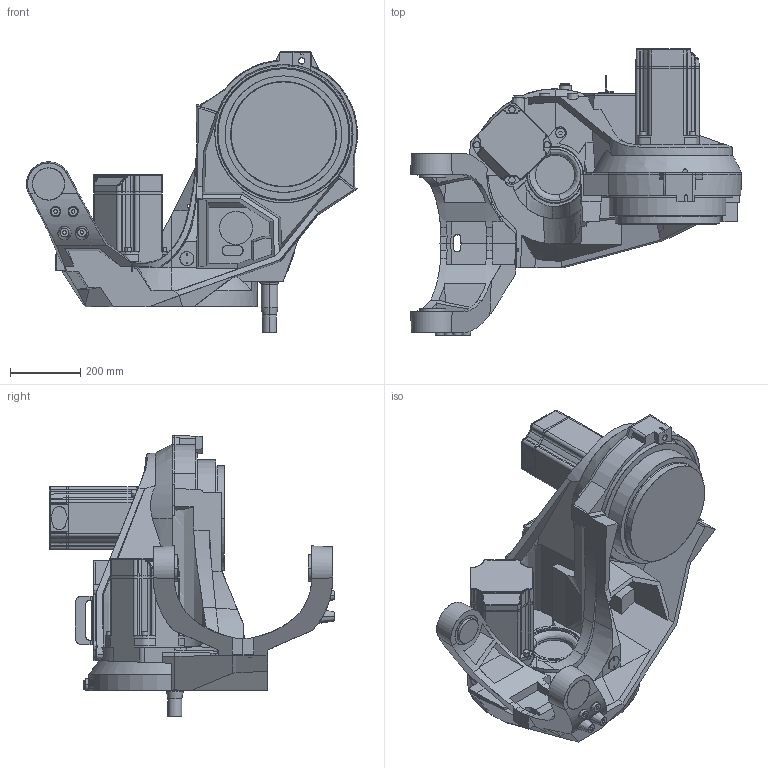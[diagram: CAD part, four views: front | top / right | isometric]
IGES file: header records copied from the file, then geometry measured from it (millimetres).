
Start section: SolidWorks IGES file using analytic representation for surfaces
Global section: file name: B:\Robotics\SEROP_PROJ\Product Development\DevelopmentProjects\RobCal\Design\CAD simuleringsmodeller\Till_RobotStudio\IRB6700-HL\IRB6700_235-265_IRC5_rev02\IRB6700_235-265_IRC5_rev02_IGES_j\IRB6700_235-265_IRC5_rev06_LINK01_CAD.IGS; native system: SolidWorks 2014; preprocessor: SolidWorks 2014; author: SEEMTHE; date: 160127.112338; units: millimetre
Bounding box: 943.1 x 814.5 x 800.5 mm (x, y, z)
Surface area: 3101341.4 mm2 (no closed solid volume)
Topology: 0 solids, 0 shells, 1243 faces, 16963 edges, 16953 vertices
Faces by surface type: bspline 736, revolution 507
